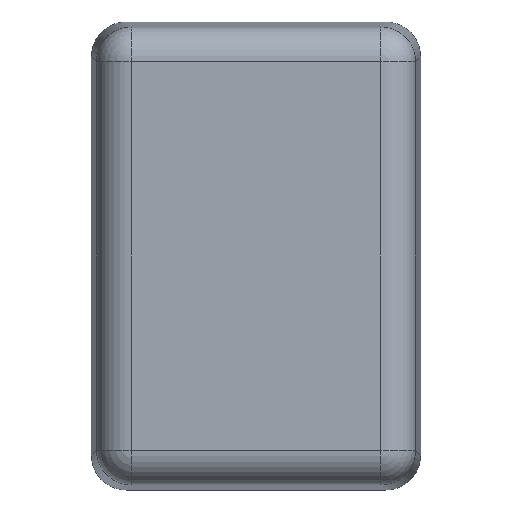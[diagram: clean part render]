
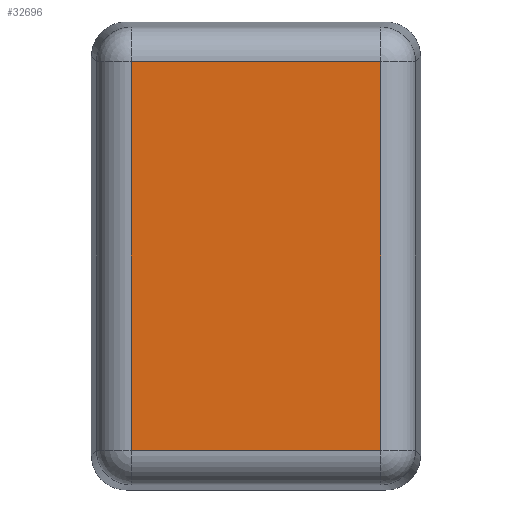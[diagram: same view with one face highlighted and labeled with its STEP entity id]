
A CAD part, front view. The second image highlights one B-rep face of the part: STEP entity #32696.
In plain terms, the highlighted planar face has unit normal (0, -1, 0).
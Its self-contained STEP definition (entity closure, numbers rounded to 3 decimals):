
#208 = LINE ( 'NONE', #5081, #25290 ) ;
#1263 = VERTEX_POINT ( 'NONE', #10552 ) ;
#3989 = CARTESIAN_POINT ( 'NONE',  ( -8.985, -12.9, -16.4 ) ) ;
#5081 = CARTESIAN_POINT ( 'NONE',  ( 8.985, -12.9, 16.4 ) ) ;
#7195 = EDGE_CURVE ( 'NONE', #1263, #24000, #208, .T. ) ;
#7585 = CARTESIAN_POINT ( 'NONE',  ( 0., -12.9, 0. ) ) ;
#7915 = ORIENTED_EDGE ( 'NONE', *, *, #30656, .T. ) ;
#7917 = VECTOR ( 'NONE', #7919, 1000. ) ;
#7919 = DIRECTION ( 'NONE',  ( -1., 0., 0. ) ) ;
#9290 = FACE_OUTER_BOUND ( 'NONE', #29958, .T. ) ;
#10073 = DIRECTION ( 'NONE',  ( 0., 0., -1. ) ) ;
#10552 = CARTESIAN_POINT ( 'NONE',  ( 8.985, -12.9, -13.985 ) ) ;
#12123 = CARTESIAN_POINT ( 'NONE',  ( 8.985, -12.9, 13.985 ) ) ;
#12310 = EDGE_CURVE ( 'NONE', #39581, #23923, #36261, .T. ) ;
#13926 = ORIENTED_EDGE ( 'NONE', *, *, #12310, .T. ) ;
#14981 = LINE ( 'NONE', #34347, #33835 ) ;
#15973 = DIRECTION ( 'NONE',  ( 0., 1., 0. ) ) ;
#16142 = LINE ( 'NONE', #39011, #7917 ) ;
#18558 = CARTESIAN_POINT ( 'NONE',  ( -8.985, -12.9, -13.985 ) ) ;
#19055 = DIRECTION ( 'NONE',  ( 0., 0., 1. ) ) ;
#22032 = DIRECTION ( 'NONE',  ( 1., 0., 0. ) ) ;
#22702 = ORIENTED_EDGE ( 'NONE', *, *, #36721, .T. ) ;
#22926 = ORIENTED_EDGE ( 'NONE', *, *, #7195, .T. ) ;
#23923 = VERTEX_POINT ( 'NONE', #18558 ) ;
#24000 = VERTEX_POINT ( 'NONE', #12123 ) ;
#25290 = VECTOR ( 'NONE', #36019, 1000. ) ;
#27096 = CARTESIAN_POINT ( 'NONE',  ( -8.985, -12.9, 13.985 ) ) ;
#29942 = VECTOR ( 'NONE', #10073, 1000. ) ;
#29958 = EDGE_LOOP ( 'NONE', ( #13926, #22702, #22926, #7915 ) ) ;
#30656 = EDGE_CURVE ( 'NONE', #24000, #39581, #16142, .T. ) ;
#32696 = ADVANCED_FACE ( 'NONE', ( #9290 ), #34478, .F. ) ;
#33835 = VECTOR ( 'NONE', #22032, 1000. ) ;
#34347 = CARTESIAN_POINT ( 'NONE',  ( 11.4, -12.9, -13.985 ) ) ;
#34478 = PLANE ( 'NONE',  #36008 ) ;
#36008 = AXIS2_PLACEMENT_3D ( 'NONE', #7585, #15973, #19055 ) ;
#36019 = DIRECTION ( 'NONE',  ( 0., 0., 1. ) ) ;
#36261 = LINE ( 'NONE', #3989, #29942 ) ;
#36721 = EDGE_CURVE ( 'NONE', #23923, #1263, #14981, .T. ) ;
#39011 = CARTESIAN_POINT ( 'NONE',  ( -11.4, -12.9, 13.985 ) ) ;
#39581 = VERTEX_POINT ( 'NONE', #27096 ) ;
